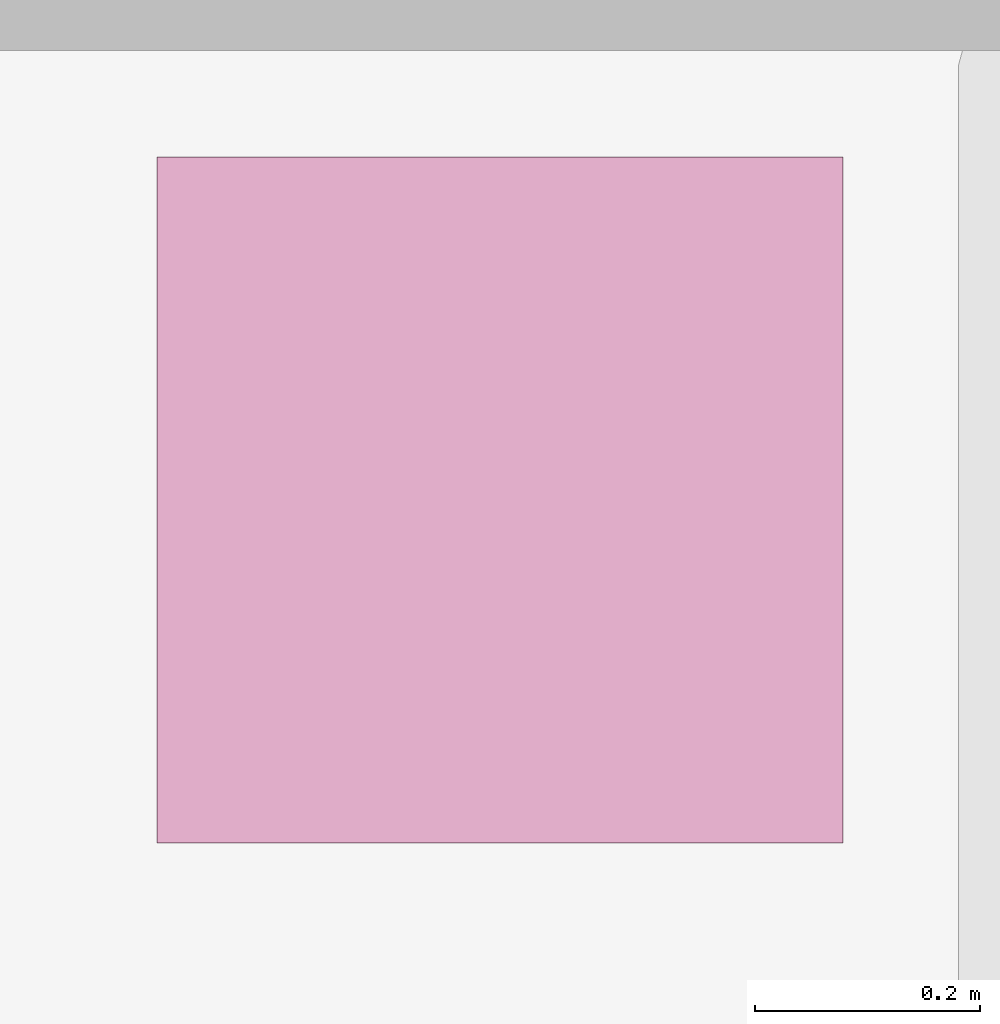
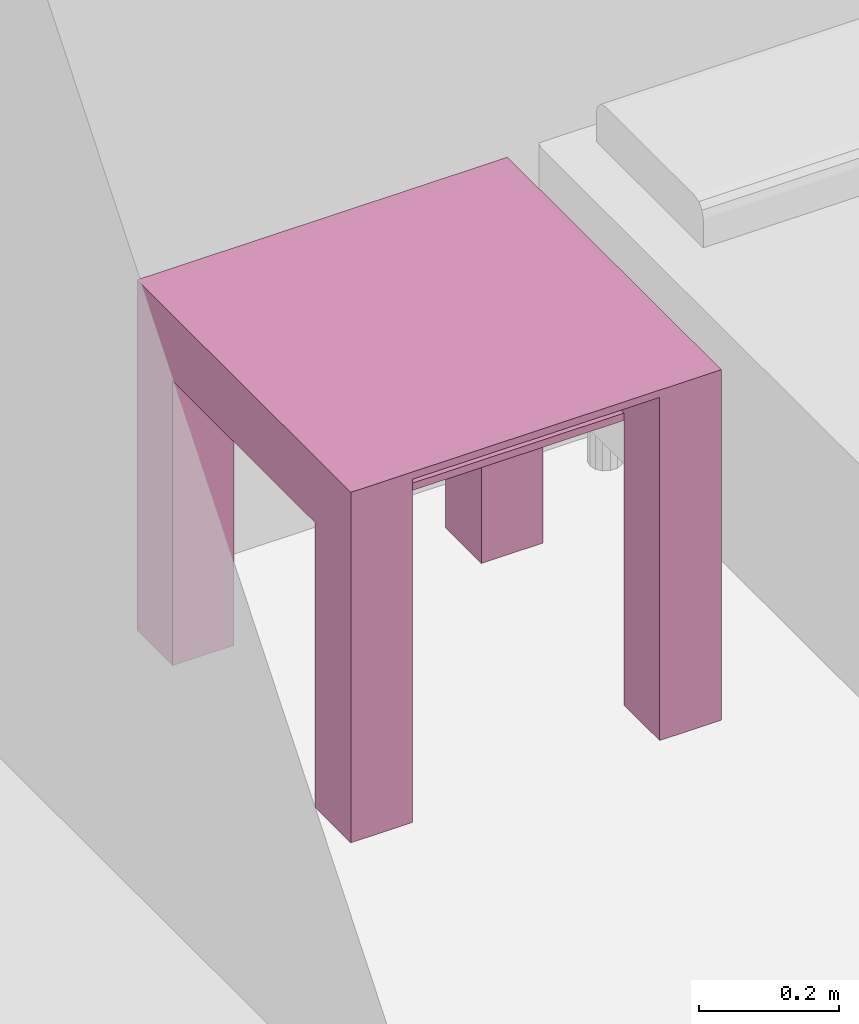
# One storey, part 12 of 16: 1 furnishing.
"""IFC4 building model written with IfcOpenShell, lengths in metres."""

from ifc_helpers import new_model, entity, si_unit, converted_unit, frame, origin, origin_2d_with_axis, place, context, project, spatial, polyline, rectangle, outline, extrude, source, transform, mapped, type_object, type_shapes, element, save


model = new_model("IFC4")

# Units and contexts
model_context = context("Model", 3, precision=1e-09, world=origin())
plan_context = context("Plan", 3, precision=1e-09, world=origin())
ifc_project = project(units=[si_unit("LENGTHUNIT", "METRE"), si_unit("AREAUNIT", "SQUARE_METRE"), si_unit("VOLUMEUNIT", "CUBIC_METRE"), converted_unit("PLANEANGLEUNIT", "DEGREE", entity("IfcRatioMeasure", 0.01745329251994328), si_unit("PLANEANGLEUNIT", "RADIAN"), dimensions=[0, 0, 0, 0, 0, 0, 0]), si_unit("TIMEUNIT", "SECOND")], contexts=[model_context, plan_context])

# Site, building, storey, space
site_placement = place(None, origin())
site = spatial("IfcSite", under=ifc_project, at=site_placement, Name="Default", CompositionType="ELEMENT")
building_placement = place(site_placement, origin())
building = spatial("IfcBuilding", under=site, at=building_placement, CompositionType="ELEMENT")
storey_placement = place(building_placement, frame((0.0, 0.0, 3.100000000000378)))
storey = spatial("IfcBuildingStorey", under=building, at=storey_placement, Name="Level 2", CompositionType="ELEMENT", Elevation=3.100000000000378)
space_placement = place(storey_placement, origin())
space = spatial("IfcSpace", under=storey, at=space_placement, Name="A202", CompositionType="ELEMENT", PredefinedType="SPACE")

# Furnishing
furniture_type = type_object("IfcFurnitureType", Name="0610 x 0610 x 0610mm", AssemblyPlace="NOTDEFINED")
shared_shape = source(origin(), model_context, "Body", "SweptSolid", [
    extrude(rectangle(XDim=0.4067999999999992, YDim=0.4067999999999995, at=origin_2d_with_axis()), frame((0.01826576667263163, 0.09521107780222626, 0.4957000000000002), z_axis=(0.0, 0.0, 1.0), x_axis=(-1.0, 0.0, 0.0)), (0.0, 0.0, 1.0), 0.01270000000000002),
    extrude(outline(polyline([(-0.2732499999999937, -0.3050000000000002), (0.3240499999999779, -0.3050000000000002), (0.3240499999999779, 0.3049999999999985), (-0.2732499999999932, 0.3049999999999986), (-0.2732499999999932, 0.2034000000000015), (0.2224500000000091, 0.2034000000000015), (0.2224500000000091, -0.2033999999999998), (-0.2732499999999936, -0.2033999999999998), (-0.2732499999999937, -0.3050000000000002)])), frame((0.2216657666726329, 0.09521107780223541, 0.2732499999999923), z_axis=(1.0, 0.0, 0.0), x_axis=(0.0, 0.0, 1.0)), (0.0, 0.0, 1.0), 0.1016),
    extrude(outline(polyline([(-0.3050000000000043, -0.3240500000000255), (0.3049999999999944, -0.3240500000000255), (0.3049999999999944, 0.2732500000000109), (0.2034000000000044, 0.2732500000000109), (0.2034000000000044, -0.2224499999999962), (-0.2033999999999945, -0.2224499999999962), (-0.2033999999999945, 0.2732500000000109), (-0.3050000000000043, 0.2732500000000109), (-0.3050000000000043, -0.3240500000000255)])), frame((-0.2867342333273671, 0.09521107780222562, 0.2732500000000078), z_axis=(1.0, 0.0, 0.0), x_axis=(0.0, -1.0, 0.0)), (0.0, 0.0, 1.0), 0.1016),
    extrude(rectangle(XDim=0.4067999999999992, YDim=0.4067999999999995, at=origin_2d_with_axis()), frame((0.01826576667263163, 0.09521107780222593, 0.5973000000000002), z_axis=(0.0, 0.0, 1.0), x_axis=(-1.0, 0.0, 0.0)), (0.0, 0.0, 1.0), 0.01270000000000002),
    extrude(outline(polyline([(-0.3050000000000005, -0.3050000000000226), (0.3050000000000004, -0.3050000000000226), (0.3050000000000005, 0.3050000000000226), (-0.3050000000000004, 0.3050000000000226), (-0.3050000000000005, -0.3050000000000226)]), holes=[polyline([(-0.203399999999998, -0.2033999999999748), (-0.2033999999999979, 0.2034000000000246), (0.2034000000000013, 0.2034000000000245), (0.2034000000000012, -0.2033999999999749), (-0.203399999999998, -0.2033999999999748)])]), frame((0.01826576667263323, 0.09521107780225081, 0.5973000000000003), z_axis=(0.0, 0.0, 1.0), x_axis=(-1.0, 0.0, 0.0)), (0.0, 0.0, 1.0), 0.01269999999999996),
])
type_shapes(furniture_type, [shared_shape])
furnishing_placement = place(space_placement, frame((5.275734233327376, -0.9122110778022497, 0.01899999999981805)))
element("IfcFurnishingElement", 1, at=furnishing_placement, inside=space, type_object=furniture_type, Name="M_Table-Coffee:0610 x 0610 x 0610mm:0610 x 0610 x 0610mm", ObjectType="0610 x 0610 x 0610mm", context=model_context, shape_type="MappedRepresentation", body=[
    mapped(shared_shape, transform((0.0, 0.0, 0.0), scale=1.0)),
])

save(model, "model.ifc")
